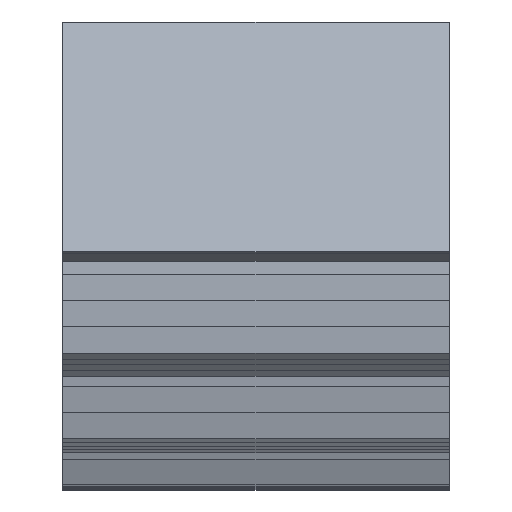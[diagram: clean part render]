
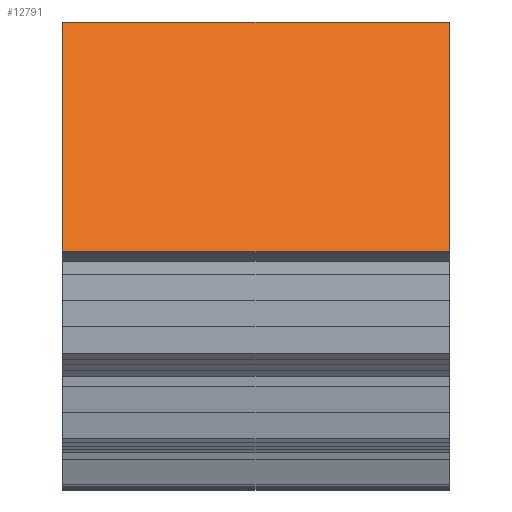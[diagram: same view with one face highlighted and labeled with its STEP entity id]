
A CAD part, top view. The second image highlights one B-rep face of the part: STEP entity #12791.
In plain terms, the highlighted planar face has unit normal (0, 0.529, 0.849).
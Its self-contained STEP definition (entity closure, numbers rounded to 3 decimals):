
#32 = PLANE('',#33);
#33 = AXIS2_PLACEMENT_3D('',#34,#35,#36);
#34 = CARTESIAN_POINT('',(6.5,0.,0.));
#35 = DIRECTION('',(1.,0.,0.));
#36 = DIRECTION('',(0.,1.,0.));
#111 = VERTEX_POINT('',#112);
#112 = CARTESIAN_POINT('',(6.5,-28.858,17.978));
#131 = CYLINDRICAL_SURFACE('',#132,34.);
#132 = AXIS2_PLACEMENT_3D('',#133,#134,#135);
#133 = CARTESIAN_POINT('',(5.5,0.,0.));
#134 = DIRECTION('',(-1.,-0.,-0.));
#135 = DIRECTION('',(0.,1.,0.));
#143 = EDGE_CURVE('',#144,#111,#146,.T.);
#144 = VERTEX_POINT('',#145);
#145 = CARTESIAN_POINT('',(6.5,-34.799,21.679));
#146 = SURFACE_CURVE('',#147,(#151,#157),.PCURVE_S1.);
#147 = LINE('',#148,#149);
#148 = CARTESIAN_POINT('',(6.5,0.,0.));
#149 = VECTOR('',#150,1.);
#150 = DIRECTION('',(0.,0.849,-0.529));
#151 = PCURVE('',#32,#152);
#152 = DEFINITIONAL_REPRESENTATION('',(#153),#156);
#153 = B_SPLINE_CURVE_WITH_KNOTS('',1,(#154,#155),.UNSPECIFIED.,.F.,.F.,
  (2,2),(-48.212,0.),.PIECEWISE_BEZIER_KNOTS.);
#154 = CARTESIAN_POINT('',(-40.921,25.492));
#155 = CARTESIAN_POINT('',(0.,0.));
#156 = ( GEOMETRIC_REPRESENTATION_CONTEXT(2) 
PARAMETRIC_REPRESENTATION_CONTEXT() REPRESENTATION_CONTEXT('2D SPACE',''
  ) );
#157 = PCURVE('',#158,#163);
#158 = PLANE('',#159);
#159 = AXIS2_PLACEMENT_3D('',#160,#161,#162);
#160 = CARTESIAN_POINT('',(5.5,0.,0.));
#161 = DIRECTION('',(0.,-0.529,-0.849));
#162 = DIRECTION('',(0.,-0.849,0.529));
#163 = DEFINITIONAL_REPRESENTATION('',(#164),#167);
#164 = B_SPLINE_CURVE_WITH_KNOTS('',1,(#165,#166),.UNSPECIFIED.,.F.,.F.,
  (2,2),(-48.212,0.),.PIECEWISE_BEZIER_KNOTS.);
#165 = CARTESIAN_POINT('',(48.212,-1.));
#166 = CARTESIAN_POINT('',(0.,-1.));
#167 = ( GEOMETRIC_REPRESENTATION_CONTEXT(2) 
PARAMETRIC_REPRESENTATION_CONTEXT() REPRESENTATION_CONTEXT('2D SPACE',''
  ) );
#185 = PLANE('',#186);
#186 = AXIS2_PLACEMENT_3D('',#187,#188,#189);
#187 = CARTESIAN_POINT('',(6.5,-34.653,21.913));
#188 = DIRECTION('',(0.,0.848,-0.531));
#189 = DIRECTION('',(0.,-0.531,-0.848));
#4773 = PLANE('',#4774);
#4774 = AXIS2_PLACEMENT_3D('',#4775,#4776,#4777);
#4775 = CARTESIAN_POINT('',(16.5,0.,0.
    ));
#4776 = DIRECTION('',(1.,0.,0.));
#4777 = DIRECTION('',(0.,1.,0.));
#12749 = EDGE_CURVE('',#12750,#144,#12752,.T.);
#12750 = VERTEX_POINT('',#12751);
#12751 = CARTESIAN_POINT('',(16.5,-34.799,21.679));
#12752 = SURFACE_CURVE('',#12753,(#12757,#12763),.PCURVE_S1.);
#12753 = LINE('',#12754,#12755);
#12754 = CARTESIAN_POINT('',(6.,-34.799,21.679));
#12755 = VECTOR('',#12756,1.);
#12756 = DIRECTION('',(-1.,0.,0.));
#12757 = PCURVE('',#185,#12758);
#12758 = DEFINITIONAL_REPRESENTATION('',(#12759),#12762);
#12759 = B_SPLINE_CURVE_WITH_KNOTS('',1,(#12760,#12761),.UNSPECIFIED.,
  .F.,.F.,(2,2),(-10.5,-0.5),.PIECEWISE_BEZIER_KNOTS.);
#12760 = CARTESIAN_POINT('',(0.276,-10.));
#12761 = CARTESIAN_POINT('',(0.276,0.));
#12762 = ( GEOMETRIC_REPRESENTATION_CONTEXT(2) 
PARAMETRIC_REPRESENTATION_CONTEXT() REPRESENTATION_CONTEXT('2D SPACE',''
  ) );
#12763 = PCURVE('',#158,#12764);
#12764 = DEFINITIONAL_REPRESENTATION('',(#12765),#12768);
#12765 = B_SPLINE_CURVE_WITH_KNOTS('',1,(#12766,#12767),.UNSPECIFIED.,
  .F.,.F.,(2,2),(-10.5,-0.5),.PIECEWISE_BEZIER_KNOTS.);
#12766 = CARTESIAN_POINT('',(41.,-11.));
#12767 = CARTESIAN_POINT('',(41.,-1.));
#12768 = ( GEOMETRIC_REPRESENTATION_CONTEXT(2) 
PARAMETRIC_REPRESENTATION_CONTEXT() REPRESENTATION_CONTEXT('2D SPACE',''
  ) );
#12791 = ADVANCED_FACE('',(#12792),#158,.F.);
#12792 = FACE_BOUND('',#12793,.F.);
#12793 = EDGE_LOOP('',(#12794,#12795,#12796,#12817));
#12794 = ORIENTED_EDGE('',*,*,#12749,.T.);
#12795 = ORIENTED_EDGE('',*,*,#143,.T.);
#12796 = ORIENTED_EDGE('',*,*,#12797,.F.);
#12797 = EDGE_CURVE('',#12798,#111,#12800,.T.);
#12798 = VERTEX_POINT('',#12799);
#12799 = CARTESIAN_POINT('',(16.5,-28.858,17.978));
#12800 = SURFACE_CURVE('',#12801,(#12805,#12811),.PCURVE_S1.);
#12801 = LINE('',#12802,#12803);
#12802 = CARTESIAN_POINT('',(5.5,-28.858,17.978));
#12803 = VECTOR('',#12804,1.);
#12804 = DIRECTION('',(-1.,-0.,-0.));
#12805 = PCURVE('',#158,#12806);
#12806 = DEFINITIONAL_REPRESENTATION('',(#12807),#12810);
#12807 = B_SPLINE_CURVE_WITH_KNOTS('',1,(#12808,#12809),.UNSPECIFIED.,
  .F.,.F.,(2,2),(-12.,-0.),.PIECEWISE_BEZIER_KNOTS.);
#12808 = CARTESIAN_POINT('',(34.,-12.));
#12809 = CARTESIAN_POINT('',(34.,0.));
#12810 = ( GEOMETRIC_REPRESENTATION_CONTEXT(2) 
PARAMETRIC_REPRESENTATION_CONTEXT() REPRESENTATION_CONTEXT('2D SPACE',''
  ) );
#12811 = PCURVE('',#131,#12812);
#12812 = DEFINITIONAL_REPRESENTATION('',(#12813),#12816);
#12813 = B_SPLINE_CURVE_WITH_KNOTS('',1,(#12814,#12815),.UNSPECIFIED.,
  .F.,.F.,(2,2),(-12.,-0.),.PIECEWISE_BEZIER_KNOTS.);
#12814 = CARTESIAN_POINT('',(-2.584,-12.));
#12815 = CARTESIAN_POINT('',(-2.584,0.));
#12816 = ( GEOMETRIC_REPRESENTATION_CONTEXT(2) 
PARAMETRIC_REPRESENTATION_CONTEXT() REPRESENTATION_CONTEXT('2D SPACE',''
  ) );
#12817 = ORIENTED_EDGE('',*,*,#12818,.F.);
#12818 = EDGE_CURVE('',#12750,#12798,#12819,.T.);
#12819 = SURFACE_CURVE('',#12820,(#12824,#12830),.PCURVE_S1.);
#12820 = LINE('',#12821,#12822);
#12821 = CARTESIAN_POINT('',(16.5,0.,0.)
  );
#12822 = VECTOR('',#12823,1.);
#12823 = DIRECTION('',(0.,0.849,-0.529));
#12824 = PCURVE('',#158,#12825);
#12825 = DEFINITIONAL_REPRESENTATION('',(#12826),#12829);
#12826 = B_SPLINE_CURVE_WITH_KNOTS('',1,(#12827,#12828),.UNSPECIFIED.,
  .F.,.F.,(2,2),(-48.212,0.),
  .PIECEWISE_BEZIER_KNOTS.);
#12827 = CARTESIAN_POINT('',(48.212,-11.));
#12828 = CARTESIAN_POINT('',(0.,-11.));
#12829 = ( GEOMETRIC_REPRESENTATION_CONTEXT(2) 
PARAMETRIC_REPRESENTATION_CONTEXT() REPRESENTATION_CONTEXT('2D SPACE',''
  ) );
#12830 = PCURVE('',#4773,#12831);
#12831 = DEFINITIONAL_REPRESENTATION('',(#12832),#12835);
#12832 = B_SPLINE_CURVE_WITH_KNOTS('',1,(#12833,#12834),.UNSPECIFIED.,
  .F.,.F.,(2,2),(-48.212,0.),
  .PIECEWISE_BEZIER_KNOTS.);
#12833 = CARTESIAN_POINT('',(-40.921,25.492));
#12834 = CARTESIAN_POINT('',(0.,0.));
#12835 = ( GEOMETRIC_REPRESENTATION_CONTEXT(2) 
PARAMETRIC_REPRESENTATION_CONTEXT() REPRESENTATION_CONTEXT('2D SPACE',''
  ) );
